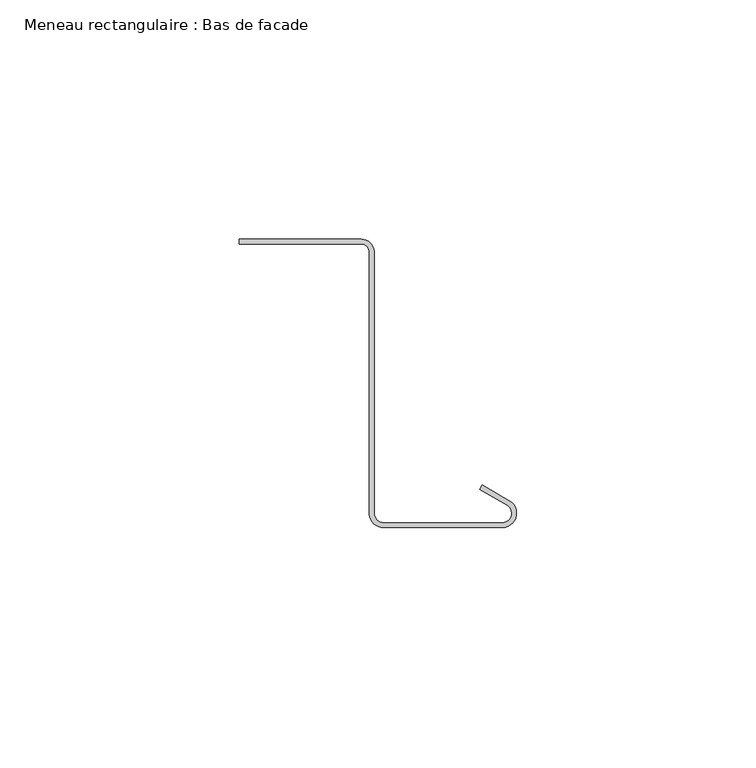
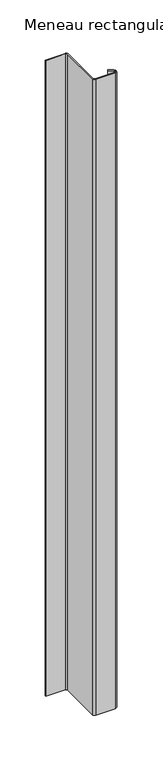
"""IFC4 building model written with IfcOpenShell, lengths in millimetres: member geometry, Meneau rectangulaire : Bas de facade."""

from ifc_helpers import new_model, si_unit, point, frame, frame_2d, origin, place, context, project, spatial, polyline, circle_curve, trimmed, segment, composite_curve, outline, extrude, source, transform, mapped, element, save


def meneau_rectangulaire_bas_de_facade_33831006(model_context):
    return source(origin(), model_context, "Body", "SweptSolid", [
        extrude(outline(composite_curve([segment(trimmed(circle_curve(frame_2d((-32.4584179, 0.2088923)), 2.75), [point((-32.4584179, 2.9588923))], [point((-29.7143802, 0.3898824))], False, "CARTESIAN"), True, "CONTINUOUS"), segment(polyline([(-29.7143802, 0.3898824), (-29.7143802, -54.5495817)]), True, "CONTINUOUS"), segment(trimmed(circle_curve(frame_2d((-27.735368, -54.2605998)), 2.0), [point((-29.7143802, -54.5495817))], [point((-27.735368, -56.2605998))], True, "CARTESIAN"), True, "CONTINUOUS"), segment(polyline([(-27.735368, -56.2605998), (-3.0, -56.2605998)]), True, "CONTINUOUS"), segment(trimmed(circle_curve(frame_2d((-3.0, -54.2605998)), 2.0), [point((-3.0, -56.2605998))], [point((-2.0, -52.528549))], True, "CARTESIAN"), True, "CONTINUOUS"), segment(polyline([(-2.0, -52.528549), (-7.6638061, -49.258549), (-7.1638061, -48.3925235), (-1.5, -51.6625235)]), True, "CONTINUOUS"), segment(trimmed(circle_curve(frame_2d((-3.0, -54.2605998)), 3.0), [point((-1.5, -51.6625235))], [point((-3.0, -57.2605998))], False, "CARTESIAN"), True, "CONTINUOUS"), segment(polyline([(-3.0, -57.2605998), (-27.735368, -57.2605998)]), True, "CONTINUOUS"), segment(trimmed(circle_curve(frame_2d((-27.735368, -54.2605998)), 3.0), [point((-27.735368, -57.2605998))], [point((-30.7239521, -54.522067))], False, "CARTESIAN"), True, "CONTINUOUS"), segment(polyline([(-30.7239521, -54.522067), (-30.7239521, 0.4415475)]), True, "CONTINUOUS"), segment(trimmed(circle_curve(frame_2d((-32.4584179, 0.2088923)), 1.75), [point((-30.7239521, 0.4415475))], [point((-32.4584179, 1.9588923))], True, "CARTESIAN"), True, "CONTINUOUS"), segment(polyline([(-32.4584179, 1.9588923), (-57.8548383, 1.9588923), (-57.8548383, 2.9588923), (-32.4584179, 2.9588923)]), True, "CONTINUOUS")], self_intersect=False)), frame((0.0, 0.0, -860.0), z_axis=(0.0, 0.0, 1.0), x_axis=(1.0, 0.0, 0.0)), (0.0, 0.0, 1.0), 860.0),
    ])


if __name__ == "__main__":
    model = new_model("IFC4")
    model_context = context("Model", 3, world=origin())
    ifc_project = project(units=[si_unit("LENGTHUNIT", "METRE", prefix="MILLI")], contexts=[model_context])
    site = spatial("IfcSite", under=ifc_project)
    building = spatial("IfcBuilding", under=site)
    placement = place(None, origin())
    meneau_rectangulaire_bas_de_facade_shape = meneau_rectangulaire_bas_de_facade_33831006(model_context)
    element("IfcMember", 1, ObjectType="Meneau rectangulaire : Bas de facade", at=placement, inside=building, context=model_context, shape_type="MappedRepresentation", body=[
        mapped(meneau_rectangulaire_bas_de_facade_shape, transform((0.0, 0.0, 0.0), x_axis=(1.0, 0.0, 0.0), y_axis=(0.0, 1.0, 0.0), z_axis=(0.0, 0.0, 1.0))),
    ])
    save(model, "model.ifc")
